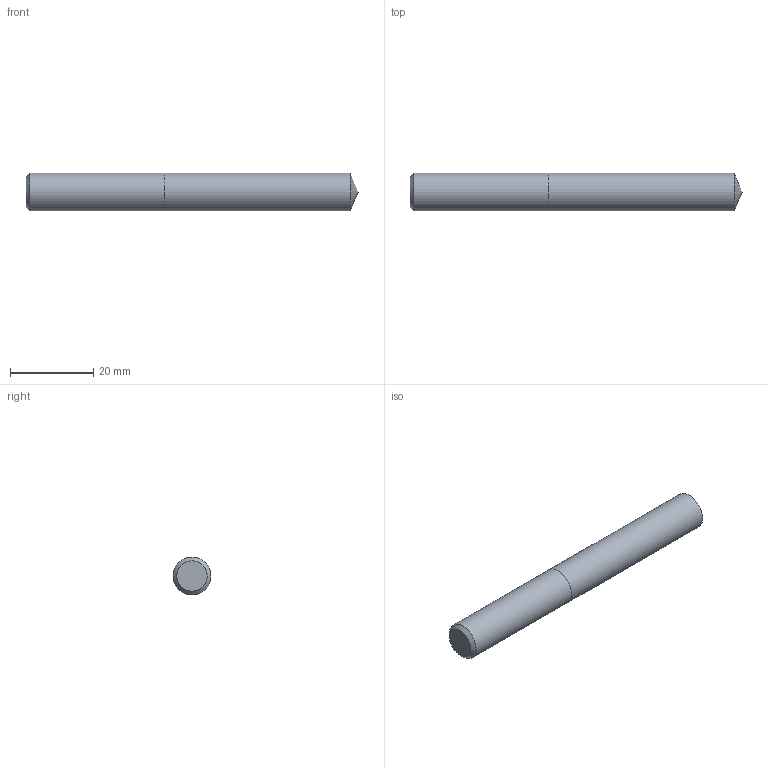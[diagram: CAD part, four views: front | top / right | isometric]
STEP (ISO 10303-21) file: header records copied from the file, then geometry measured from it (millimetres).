
FILE_DESCRIPTION (( 'STEP AP214' ), '1' );
FILE_NAME ('03-2336.STEP', '2022-06-03T06:23:23', ( 'USER' ), ( '' ), 'SwSTEP 2.0', 'SolidWorks 2018', '' );
FILE_SCHEMA (( 'AUTOMOTIVE_DESIGN' ));
Length unit declared in the file: inch
Products named in the file (1): 03-2336
Bounding box: 79.67 x 9.09 x 9.09 mm (x, y, z)
Volume: 5081.4 mm3; surface area: 2471 mm2
Topology: 2 solids, 2 shells, 7 faces, 11 edges, 7 vertices
Faces by surface type: plane 3, cylinder 2, cone 2
Full cylindrical faces by diameter (mm): 9.093 x2
Entity records: 214 total; most frequent: DIRECTION 26, CARTESIAN_POINT 18, AXIS2_PLACEMENT_3D 13, EDGE_LOOP 10, ORIENTED_EDGE 10, FACE_OUTER_BOUND 9, ADVANCED_FACE 7, LENGTH_MEASURE_WITH_UNIT 7
